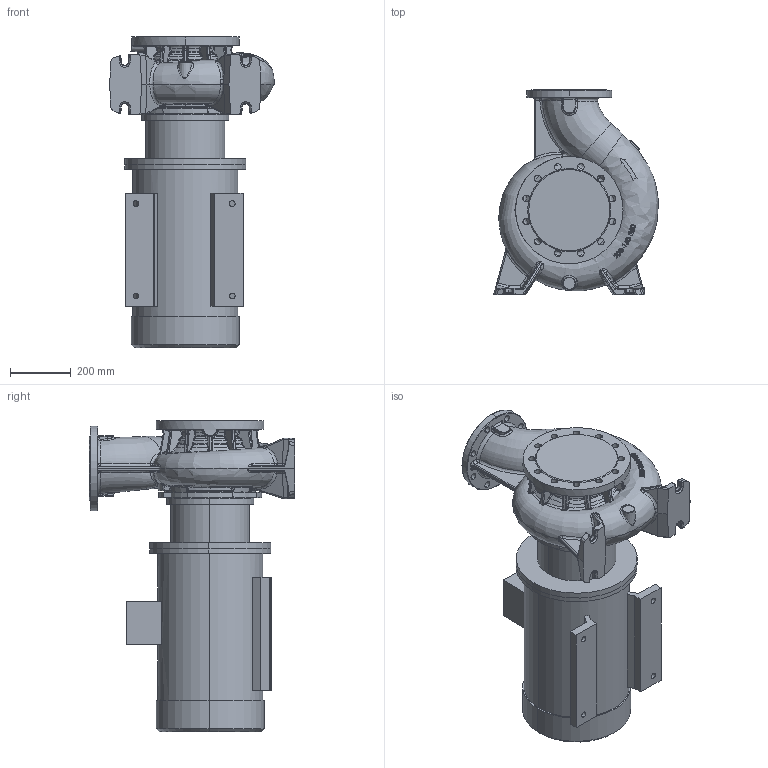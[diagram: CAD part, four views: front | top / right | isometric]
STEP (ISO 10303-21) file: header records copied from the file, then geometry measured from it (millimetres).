
FILE_DESCRIPTION (( 'STEP AP214' ), '1' );
FILE_NAME ('KRM 200-150-250-4-30.STEP', '2026-04-17T12:17:38', ( '' ), ( '' ), 'SwSTEP 2.0', 'SolidWorks 2016', '' );
FILE_SCHEMA (( 'AUTOMOTIVE_DESIGN' ));
Length unit declared in the file: millimetre
Products named in the file (1): KRM 200-150-250-4-30
Bounding box: 544.21 x 680 x 1030.8 mm (x, y, z)
Volume: 116157730.4 mm3; surface area: 3112904.3 mm2
Topology: 8 solids, 8 shells, 1483 faces, 3639 edges, 2173 vertices
Faces by surface type: bspline 661, cylinder 291, plane 263, torus 147, cone 99, sphere 22
Entity records: 148888 total; most frequent: CARTESIAN_POINT 102634, ORIENTED_EDGE 7234, DIRECTION 4971, EDGE_CURVE 3617, VERTEX_POINT 2173, AXIS2_PLACEMENT_3D 2117, EDGE_LOOP 1554, UNCERTAINTY_MEASURE_WITH_UNIT 1493
